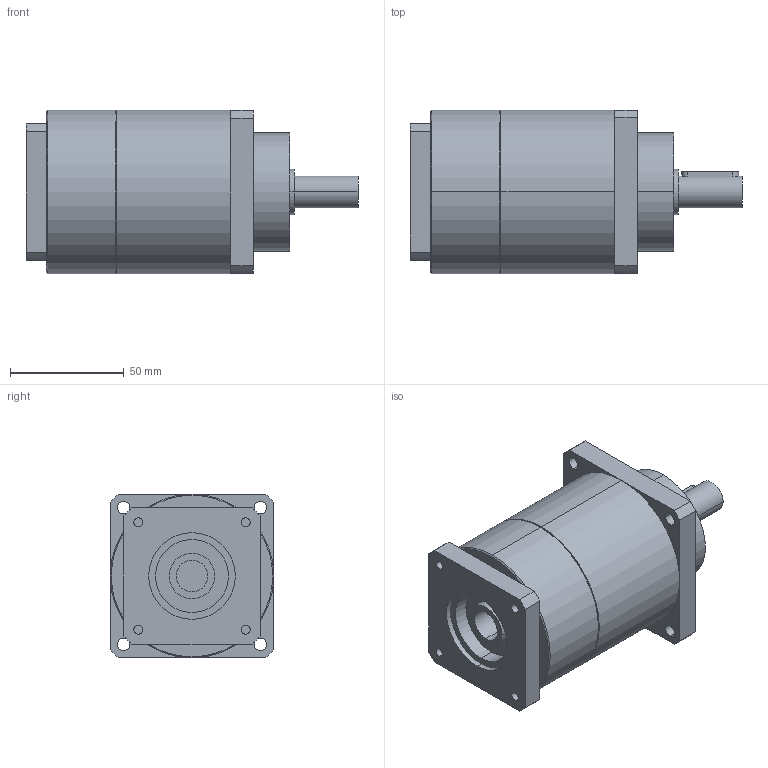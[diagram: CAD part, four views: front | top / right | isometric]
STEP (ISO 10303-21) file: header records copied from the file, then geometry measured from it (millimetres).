
FILE_DESCRIPTION(('CoCreate Modeling STEP Export'),'2;1');
FILE_NAME('GPT75_ig-9-12-16-20-25-28-35-40-50-70-100_14_B5T_14_P28.stp','2014-08-27T13:38:12',(''),(''),'CoCreate Modeling STEP processor for AP214 (Solid Model)','CoCreate Modeling 16.00C 25-Feb-2009 (C) Parametric Technology GmbH','');
FILE_SCHEMA(('AUTOMOTIVE_DESIGN { 1 0 10303 214 1 1 1 1 }'));
Length unit declared in the file: millimetre
Products named in the file (2): GPT75_ig-9-12-16-20-25-28-35-40-50-70-100_14_B5T_14_P28
Assembly tree (1 placements, depth 2):
  GPT75_ig-9-12-16-20-25-28-35-40-50-70-100_14_B5T_14_P28
    GPT75_ig-9-12-16-20-25-28-35-40-50-70-100_14_B5T_14_P28
Bounding box: 146 x 72 x 72 mm (x, y, z)
Volume: 439154.5 mm3; surface area: 41806.8 mm2
Topology: 1 solids, 1 shells, 88 faces, 210 edges, 137 vertices
Faces by surface type: cylinder 46, plane 38, cone 4
Entity records: 2592 total; most frequent: CARTESIAN_POINT 732, ORIENTED_EDGE 420, DIRECTION 326, EDGE_CURVE 210, VERTEX_POINT 137, AXIS2_PLACEMENT_3D 119, EDGE_LOOP 109, VECTOR 88
